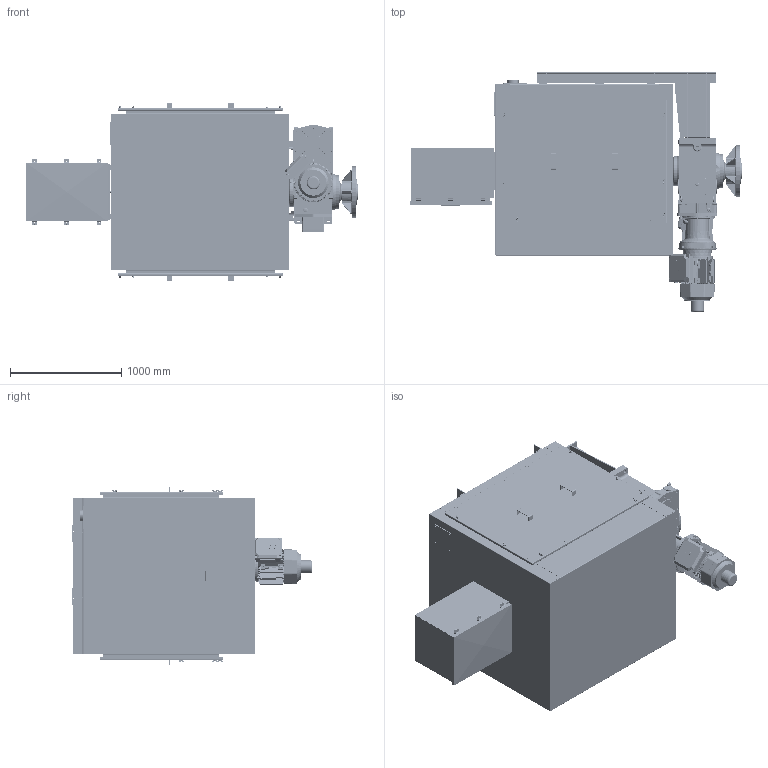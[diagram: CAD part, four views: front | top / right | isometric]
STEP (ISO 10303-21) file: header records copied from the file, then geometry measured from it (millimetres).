
FILE_DESCRIPTION(/* description */ (''),/* implementation_level */ '2;1');
FILE_NAME(/* name */ 'K:\NEMANJA\CABLE REEL\CABLE REEL DA\0700-6\07006005 DA-CRVD\STEP\75985.stp',/* time_stamp */ '2017-03-16T15:47:45+01:00',/* author */ ('milman01'),/* organization */ ('Hillmar Industries Ltd.'),/* preprocessor_version */ 'ST-DEVELOPER v16.1',/* originating_system */ 'Autodesk Inventor 2016',/* authorisation */ '');
FILE_SCHEMA (('AUTOMOTIVE_DESIGN { 1 0 10303 214 3 1 1 }'));
Products named in the file (1): 75985
Bounding box: 2980.69 x 2154.59 x 1606.6 mm (x, y, z)
Volume: 180980026.3 mm3; surface area: 49843097.9 mm2
Topology: 17 solids, 17 shells, 5971 faces, 15870 edges, 10154 vertices
Faces by surface type: plane 3030, cylinder 1642, bspline 603, cone 451, torus 219, sphere 26
Full cylindrical faces by diameter (mm): 7 x1, 8 x2, 8.376 x28, 8.731 x1, 9 x7, 10 x24, 10.106 x84, 11 x20, 12 x35, 12.5 x6, 13 x55, 13.5 x16, 13.835 x4, 14 x12, 14.3 x8, 14.5 x8, 16 x1, 18 x1, 18.256 x3, 18.38 x1, 19 x4, 20 x15, 20.5 x4, 21.336 x1, 22 x20, 22.225 x1, 22.3 x1, 23.376 x1, 23.812 x2, 24.917 x1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
Entity records: 202965 total; most frequent: CARTESIAN_POINT 56138, ORIENTED_EDGE 29446, DIRECTION 27725, EDGE_CURVE 14709, VERTEX_POINT 9786, AXIS2_PLACEMENT_3D 9746, LINE 8233, VECTOR 8233
